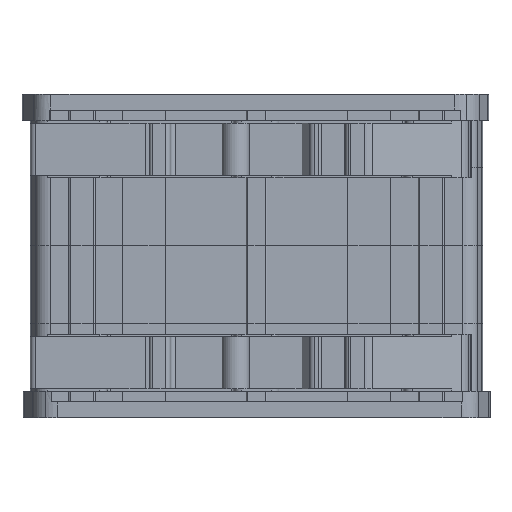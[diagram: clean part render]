
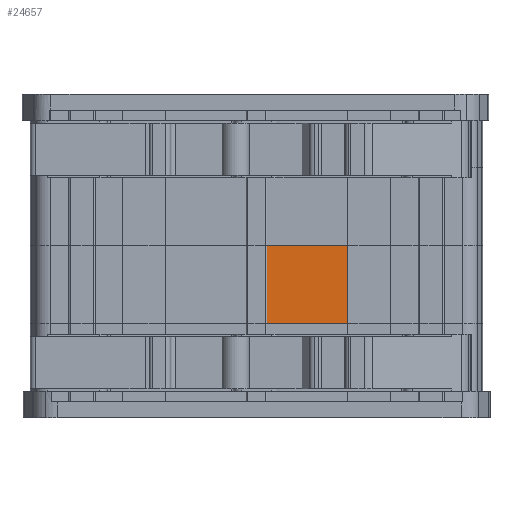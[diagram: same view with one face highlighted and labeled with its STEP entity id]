
A CAD part, front view. The second image highlights one B-rep face of the part: STEP entity #24657.
In plain terms, the highlighted planar face has unit normal (0, -1, 0).
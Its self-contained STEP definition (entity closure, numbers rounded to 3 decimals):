
#2518 = PLANE('',#2519);
#2519 = AXIS2_PLACEMENT_3D('',#2520,#2521,#2522);
#2520 = CARTESIAN_POINT('',(17.5,12.1,
    3.));
#2521 = DIRECTION('',(-0.,-1.,-0.));
#2522 = DIRECTION('',(-1.,0.,0.));
#9671 = VERTEX_POINT('',#9672);
#9672 = CARTESIAN_POINT('',(17.5,12.1,18.));
#9686 = PLANE('',#9687);
#9687 = AXIS2_PLACEMENT_3D('',#9688,#9689,#9690);
#9688 = CARTESIAN_POINT('',(17.5,11.5,
    18.));
#9689 = DIRECTION('',(-1.,0.,0.));
#9690 = DIRECTION('',(0.,1.,0.));
#9724 = EDGE_CURVE('',#9671,#9725,#9727,.T.);
#9725 = VERTEX_POINT('',#9726);
#9726 = CARTESIAN_POINT('',(0.95,12.1,18.));
#9727 = SURFACE_CURVE('',#9728,(#9732,#9739),.PCURVE_S1.);
#9728 = LINE('',#9729,#9730);
#9729 = CARTESIAN_POINT('',(0.,12.1,18.));
#9730 = VECTOR('',#9731,1.);
#9731 = DIRECTION('',(-1.,0.,0.));
#9732 = PCURVE('',#2518,#9733);
#9733 = DEFINITIONAL_REPRESENTATION('',(#9734),#9738);
#9734 = LINE('',#9735,#9736);
#9735 = CARTESIAN_POINT('',(17.5,-15.));
#9736 = VECTOR('',#9737,1.);
#9737 = DIRECTION('',(1.,0.));
#9738 = ( GEOMETRIC_REPRESENTATION_CONTEXT(2) 
PARAMETRIC_REPRESENTATION_CONTEXT() REPRESENTATION_CONTEXT('2D SPACE',''
  ) );
#9739 = PCURVE('',#9740,#9745);
#9740 = PLANE('',#9741);
#9741 = AXIS2_PLACEMENT_3D('',#9742,#9743,#9744);
#9742 = CARTESIAN_POINT('',(17.5,12.1,
    18.));
#9743 = DIRECTION('',(-0.,-1.,-0.));
#9744 = DIRECTION('',(-1.,0.,0.));
#9745 = DEFINITIONAL_REPRESENTATION('',(#9746),#9750);
#9746 = LINE('',#9747,#9748);
#9747 = CARTESIAN_POINT('',(17.5,0.));
#9748 = VECTOR('',#9749,1.);
#9749 = DIRECTION('',(1.,0.));
#9750 = ( GEOMETRIC_REPRESENTATION_CONTEXT(2) 
PARAMETRIC_REPRESENTATION_CONTEXT() REPRESENTATION_CONTEXT('2D SPACE',''
  ) );
#9814 = CYLINDRICAL_SURFACE('',#9815,0.3);
#9815 = AXIS2_PLACEMENT_3D('',#9816,#9817,#9818);
#9816 = CARTESIAN_POINT('',(0.95,11.8,18.));
#9817 = DIRECTION('',(0.,0.,1.));
#9818 = DIRECTION('',(1.,0.,-0.));
#24610 = VERTEX_POINT('',#24611);
#24611 = CARTESIAN_POINT('',(17.5,12.1,33.));
#24637 = EDGE_CURVE('',#24610,#9671,#24638,.T.);
#24638 = SURFACE_CURVE('',#24639,(#24643,#24650),.PCURVE_S1.);
#24639 = LINE('',#24640,#24641);
#24640 = CARTESIAN_POINT('',(17.5,12.1,
    18.));
#24641 = VECTOR('',#24642,1.);
#24642 = DIRECTION('',(0.,0.,-1.));
#24643 = PCURVE('',#9686,#24644);
#24644 = DEFINITIONAL_REPRESENTATION('',(#24645),#24649);
#24645 = LINE('',#24646,#24647);
#24646 = CARTESIAN_POINT('',(0.6,0.));
#24647 = VECTOR('',#24648,1.);
#24648 = DIRECTION('',(0.,1.));
#24649 = ( GEOMETRIC_REPRESENTATION_CONTEXT(2) 
PARAMETRIC_REPRESENTATION_CONTEXT() REPRESENTATION_CONTEXT('2D SPACE',''
  ) );
#24650 = PCURVE('',#9740,#24651);
#24651 = DEFINITIONAL_REPRESENTATION('',(#24652),#24656);
#24652 = LINE('',#24653,#24654);
#24653 = CARTESIAN_POINT('',(0.,0.));
#24654 = VECTOR('',#24655,1.);
#24655 = DIRECTION('',(0.,1.));
#24656 = ( GEOMETRIC_REPRESENTATION_CONTEXT(2) 
PARAMETRIC_REPRESENTATION_CONTEXT() REPRESENTATION_CONTEXT('2D SPACE',''
  ) );
#24657 = ADVANCED_FACE('',(#24658),#9740,.T.);
#24658 = FACE_BOUND('',#24659,.T.);
#24659 = EDGE_LOOP('',(#24660,#24661,#24662,#24690));
#24660 = ORIENTED_EDGE('',*,*,#9724,.F.);
#24661 = ORIENTED_EDGE('',*,*,#24637,.F.);
#24662 = ORIENTED_EDGE('',*,*,#24663,.T.);
#24663 = EDGE_CURVE('',#24610,#24664,#24666,.T.);
#24664 = VERTEX_POINT('',#24665);
#24665 = CARTESIAN_POINT('',(0.95,12.1,33.));
#24666 = SURFACE_CURVE('',#24667,(#24671,#24678),.PCURVE_S1.);
#24667 = LINE('',#24668,#24669);
#24668 = CARTESIAN_POINT('',(-16.25,12.1,33.));
#24669 = VECTOR('',#24670,1.);
#24670 = DIRECTION('',(-1.,0.,0.));
#24671 = PCURVE('',#9740,#24672);
#24672 = DEFINITIONAL_REPRESENTATION('',(#24673),#24677);
#24673 = LINE('',#24674,#24675);
#24674 = CARTESIAN_POINT('',(33.75,-15.));
#24675 = VECTOR('',#24676,1.);
#24676 = DIRECTION('',(1.,0.));
#24677 = ( GEOMETRIC_REPRESENTATION_CONTEXT(2) 
PARAMETRIC_REPRESENTATION_CONTEXT() REPRESENTATION_CONTEXT('2D SPACE',''
  ) );
#24678 = PCURVE('',#24679,#24684);
#24679 = PLANE('',#24680);
#24680 = AXIS2_PLACEMENT_3D('',#24681,#24682,#24683);
#24681 = CARTESIAN_POINT('',(17.5,12.1,
    33.));
#24682 = DIRECTION('',(-0.,-1.,-0.));
#24683 = DIRECTION('',(-1.,0.,0.));
#24684 = DEFINITIONAL_REPRESENTATION('',(#24685),#24689);
#24685 = LINE('',#24686,#24687);
#24686 = CARTESIAN_POINT('',(33.75,0.));
#24687 = VECTOR('',#24688,1.);
#24688 = DIRECTION('',(1.,0.));
#24689 = ( GEOMETRIC_REPRESENTATION_CONTEXT(2) 
PARAMETRIC_REPRESENTATION_CONTEXT() REPRESENTATION_CONTEXT('2D SPACE',''
  ) );
#24690 = ORIENTED_EDGE('',*,*,#24691,.F.);
#24691 = EDGE_CURVE('',#9725,#24664,#24692,.T.);
#24692 = SURFACE_CURVE('',#24693,(#24697,#24704),.PCURVE_S1.);
#24693 = LINE('',#24694,#24695);
#24694 = CARTESIAN_POINT('',(0.95,12.1,18.));
#24695 = VECTOR('',#24696,1.);
#24696 = DIRECTION('',(0.,0.,1.));
#24697 = PCURVE('',#9740,#24698);
#24698 = DEFINITIONAL_REPRESENTATION('',(#24699),#24703);
#24699 = LINE('',#24700,#24701);
#24700 = CARTESIAN_POINT('',(16.55,0.));
#24701 = VECTOR('',#24702,1.);
#24702 = DIRECTION('',(0.,-1.));
#24703 = ( GEOMETRIC_REPRESENTATION_CONTEXT(2) 
PARAMETRIC_REPRESENTATION_CONTEXT() REPRESENTATION_CONTEXT('2D SPACE',''
  ) );
#24704 = PCURVE('',#9814,#24705);
#24705 = DEFINITIONAL_REPRESENTATION('',(#24706),#24710);
#24706 = LINE('',#24707,#24708);
#24707 = CARTESIAN_POINT('',(1.571,0.));
#24708 = VECTOR('',#24709,1.);
#24709 = DIRECTION('',(0.,1.));
#24710 = ( GEOMETRIC_REPRESENTATION_CONTEXT(2) 
PARAMETRIC_REPRESENTATION_CONTEXT() REPRESENTATION_CONTEXT('2D SPACE',''
  ) );
